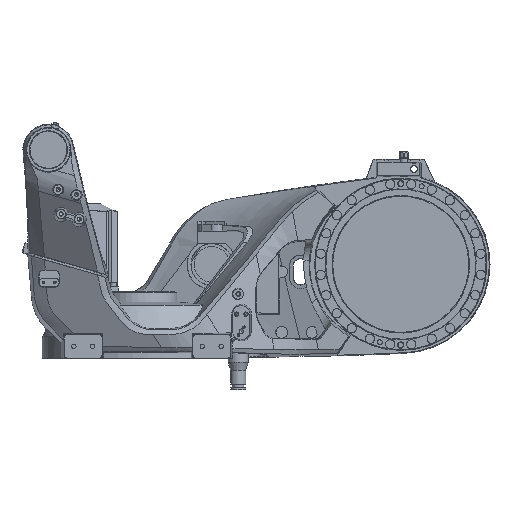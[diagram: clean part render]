
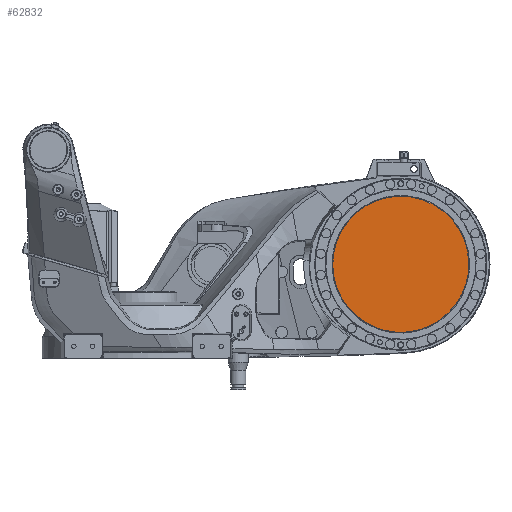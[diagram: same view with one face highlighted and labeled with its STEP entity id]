
A CAD part, front view. The second image highlights one B-rep face of the part: STEP entity #62832.
In plain terms, the highlighted planar face has unit normal (0, -1, 0).
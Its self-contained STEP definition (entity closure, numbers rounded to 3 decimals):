
#1886 = EDGE_LOOP ( 'NONE', ( #14284 ) ) ;
#5429 = EDGE_CURVE ( 'NONE', #61055, #61055, #38120, .T. ) ;
#9045 = DIRECTION ( 'NONE',  ( 0., 1., 0. ) ) ;
#14284 = ORIENTED_EDGE ( 'NONE', *, *, #5429, .T. ) ;
#16390 = DIRECTION ( 'NONE',  ( -0.991, 0., 0.131 ) ) ;
#19661 = DIRECTION ( 'NONE',  ( -1., 0., 0. ) ) ;
#23219 = CARTESIAN_POINT ( 'NONE',  ( 713.344, -153.5, 707.315 ) ) ;
#28829 = AXIS2_PLACEMENT_3D ( 'NONE', #78478, #34259, #19661 ) ;
#34259 = DIRECTION ( 'NONE',  ( 0., -1., 0. ) ) ;
#34441 = PLANE ( 'NONE',  #77046 ) ;
#38120 = CIRCLE ( 'NONE', #28829, 180. ) ;
#61055 = VERTEX_POINT ( 'NONE', #68828 ) ;
#62832 = ADVANCED_FACE ( 'NONE', ( #65964 ), #34441, .F. ) ;
#65964 = FACE_OUTER_BOUND ( 'NONE', #1886, .T. ) ;
#68828 = CARTESIAN_POINT ( 'NONE',  ( 510., -153.5, 530. ) ) ;
#77046 = AXIS2_PLACEMENT_3D ( 'NONE', #23219, #9045, #16390 ) ;
#78478 = CARTESIAN_POINT ( 'NONE',  ( 690., -153.5, 530. ) ) ;
